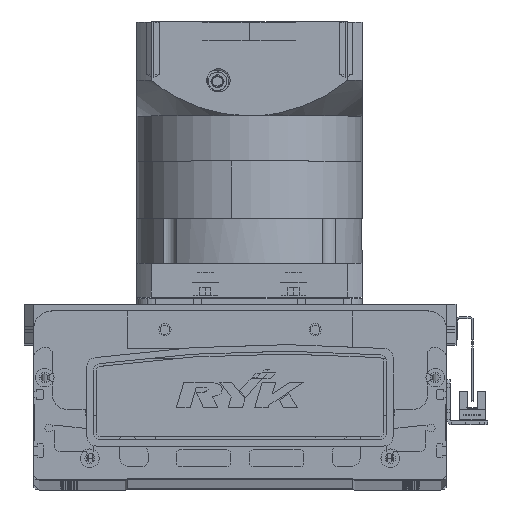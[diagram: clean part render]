
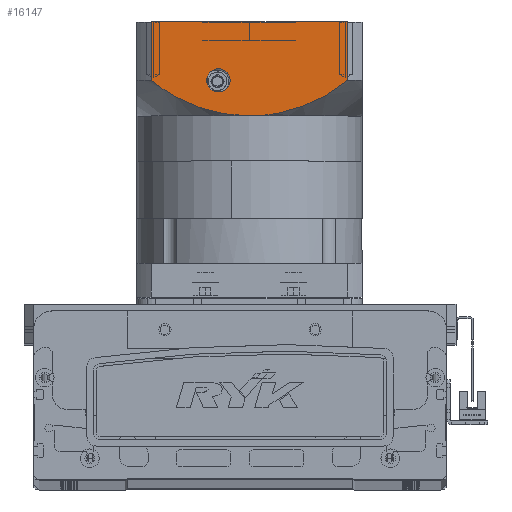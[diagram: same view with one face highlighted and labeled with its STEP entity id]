
A CAD part, top view. The second image highlights one B-rep face of the part: STEP entity #16147.
In plain terms, the highlighted planar face has unit normal (0, 0, 1) as drawn and (0, -1, 0) by its records, which use the part's own axes.
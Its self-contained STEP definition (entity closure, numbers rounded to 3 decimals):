
#1170 = FACE_BOUND ( 'NONE', #53653, .T. ) ;
#1744 = CARTESIAN_POINT ( 'NONE',  ( 36.444, -60., -108.986 ) ) ;
#1911 = CARTESIAN_POINT ( 'NONE',  ( -2.376, -60., -100.5 ) ) ;
#1978 = CARTESIAN_POINT ( 'NONE',  ( 41.545, -60., -111.931 ) ) ;
#3628 = B_SPLINE_CURVE_WITH_KNOTS ( 'NONE', 3,
 ( #35339, #68305, #46281, #29011, #51931, #28767, #34848, #23433, #23911, #6603, #1744, #1978, #18547, #51436, #46057, #40208, #50964, #45327 ),
 .UNSPECIFIED., .F., .F.,
 ( 4, 2, 2, 2, 2, 2, 2, 2, 4 ),
 ( 0., 0.014, 0.018, 0.021, 0.028, 0.042, 0.046, 0.05, 0.057 ),
 .UNSPECIFIED. ) ;
#3635 = EDGE_CURVE ( 'NONE', #4181, #39610, #24828, .T. ) ;
#3938 = CARTESIAN_POINT ( 'NONE',  ( 16.5, -60., -119.5 ) ) ;
#4181 = VERTEX_POINT ( 'NONE', #25695 ) ;
#4631 = EDGE_CURVE ( 'NONE', #5528, #4771, #34949, .T. ) ;
#4735 = CARTESIAN_POINT ( 'NONE',  ( -60., -60., -150.5 ) ) ;
#4771 = VERTEX_POINT ( 'NONE', #8766 ) ;
#5528 = VERTEX_POINT ( 'NONE', #33312 ) ;
#5749 = LINE ( 'NONE', #70437, #26695 ) ;
#6603 = CARTESIAN_POINT ( 'NONE',  ( 32.196, -60., -107.007 ) ) ;
#6840 = CARTESIAN_POINT ( 'NONE',  ( -60., -60., -150.5 ) ) ;
#7486 = CARTESIAN_POINT ( 'NONE',  ( 0., -60., -100.5 ) ) ;
#8766 = CARTESIAN_POINT ( 'NONE',  ( 52.156, -60., -150.5 ) ) ;
#8875 = EDGE_CURVE ( 'NONE', #4771, #19144, #5749, .T. ) ;
#10217 = CARTESIAN_POINT ( 'NONE',  ( 16.5, -60., -125.75 ) ) ;
#12500 = EDGE_CURVE ( 'NONE', #39610, #19144, #3628, .T. ) ;
#12858 = CARTESIAN_POINT ( 'NONE',  ( -38.51, -60., -110.207 ) ) ;
#14622 = CARTESIAN_POINT ( 'NONE',  ( 16.5, -60., -113.25 ) ) ;
#15845 = DIRECTION ( 'NONE',  ( 0., 0., -1. ) ) ;
#16147 = ADVANCED_FACE ( 'NONE', ( #38615, #1170 ), #32484, .T. ) ;
#18222 = CARTESIAN_POINT ( 'NONE',  ( -39.546, -60., -110.776 ) ) ;
#18383 = VECTOR ( 'NONE', #58312, 1000. ) ;
#18467 = CARTESIAN_POINT ( 'NONE',  ( -32.118, -60., -107.084 ) ) ;
#18547 = CARTESIAN_POINT ( 'NONE',  ( 42.555, -60., -112.543 ) ) ;
#18712 = CARTESIAN_POINT ( 'NONE',  ( -18.792, -60., -102.562 ) ) ;
#19136 = AXIS2_PLACEMENT_3D ( 'NONE', #3938, #54130, #15845 ) ;
#19144 = VERTEX_POINT ( 'NONE', #57994 ) ;
#19212 = LINE ( 'NONE', #30002, #18383 ) ;
#23433 = CARTESIAN_POINT ( 'NONE',  ( 23.329, -60., -103.886 ) ) ;
#23600 = CARTESIAN_POINT ( 'NONE',  ( -9.477, -60., -101.046 ) ) ;
#23911 = CARTESIAN_POINT ( 'NONE',  ( 25.577, -60., -104.596 ) ) ;
#24086 = CARTESIAN_POINT ( 'NONE',  ( -12.993, -60., -101.537 ) ) ;
#24828 = B_SPLINE_CURVE_WITH_KNOTS ( 'NONE', 3,
 ( #62623, #46212, #57974, #18222, #12858, #51853, #56976, #18467, #41094, #34542, #18712, #24086, #63111, #23600, #29661, #68706, #1911, #7486 ),
 .UNSPECIFIED., .F., .F.,
 ( 4, 2, 2, 2, 2, 2, 2, 2, 4 ),
 ( 0., 0.014, 0.018, 0.021, 0.028, 0.042, 0.046, 0.05, 0.057 ),
 .UNSPECIFIED. ) ;
#24977 = ORIENTED_EDGE ( 'NONE', *, *, #63837, .T. ) ;
#25695 = CARTESIAN_POINT ( 'NONE',  ( -52.156, -60., -119.5 ) ) ;
#26142 = VERTEX_POINT ( 'NONE', #10217 ) ;
#26695 = VECTOR ( 'NONE', #53106, 1000. ) ;
#28022 = ORIENTED_EDGE ( 'NONE', *, *, #30997, .T. ) ;
#28767 = CARTESIAN_POINT ( 'NONE',  ( 18.739, -60., -102.681 ) ) ;
#29011 = CARTESIAN_POINT ( 'NONE',  ( 15.267, -60., -101.938 ) ) ;
#29661 = CARTESIAN_POINT ( 'NONE',  ( -8.294, -60., -100.916 ) ) ;
#29921 = DIRECTION ( 'NONE',  ( 0., 1., 0. ) ) ;
#30002 = CARTESIAN_POINT ( 'NONE',  ( -52.156, -60., -97.5 ) ) ;
#30385 = CIRCLE ( 'NONE', #44291, 6.25 ) ;
#30997 = EDGE_CURVE ( 'NONE', #33356, #26142, #30385, .T. ) ;
#31551 = DIRECTION ( 'NONE',  ( 1., 0., 0. ) ) ;
#32484 = PLANE ( 'NONE',  #54375 ) ;
#33312 = CARTESIAN_POINT ( 'NONE',  ( -52.156, -60., -150.5 ) ) ;
#33356 = VERTEX_POINT ( 'NONE', #14622 ) ;
#34542 = CARTESIAN_POINT ( 'NONE',  ( -23.319, -60., -103.777 ) ) ;
#34848 = CARTESIAN_POINT ( 'NONE',  ( 19.894, -60., -102.964 ) ) ;
#34949 = LINE ( 'NONE', #6840, #38431 ) ;
#35053 = ORIENTED_EDGE ( 'NONE', *, *, #8875, .T. ) ;
#35339 = CARTESIAN_POINT ( 'NONE',  ( 0., -60., -100.5 ) ) ;
#38431 = VECTOR ( 'NONE', #51428, 1000. ) ;
#38615 = FACE_OUTER_BOUND ( 'NONE', #65212, .T. ) ;
#39610 = VERTEX_POINT ( 'NONE', #49207 ) ;
#40208 = CARTESIAN_POINT ( 'NONE',  ( 48.457, -60., -116.522 ) ) ;
#41094 = CARTESIAN_POINT ( 'NONE',  ( -29.939, -60., -106.183 ) ) ;
#44291 = AXIS2_PLACEMENT_3D ( 'NONE', #56997, #29921, #46470 ) ;
#45327 = CARTESIAN_POINT ( 'NONE',  ( 52.156, -60., -119.5 ) ) ;
#46057 = CARTESIAN_POINT ( 'NONE',  ( 45.542, -60., -114.478 ) ) ;
#46212 = CARTESIAN_POINT ( 'NONE',  ( -48.52, -60., -116.438 ) ) ;
#46281 = CARTESIAN_POINT ( 'NONE',  ( 9.454, -60., -100.914 ) ) ;
#46470 = DIRECTION ( 'NONE',  ( 0., 0., -1. ) ) ;
#49207 = CARTESIAN_POINT ( 'NONE',  ( 0., -60., -100.5 ) ) ;
#50964 = CARTESIAN_POINT ( 'NONE',  ( 50.338, -60., -117.969 ) ) ;
#51428 = DIRECTION ( 'NONE',  ( 1., 0., 0. ) ) ;
#51436 = CARTESIAN_POINT ( 'NONE',  ( 44.553, -60., -113.817 ) ) ;
#51853 = CARTESIAN_POINT ( 'NONE',  ( -36.409, -60., -109.113 ) ) ;
#51931 = CARTESIAN_POINT ( 'NONE',  ( 16.426, -60., -102.169 ) ) ;
#51979 = EDGE_CURVE ( 'NONE', #5528, #4181, #19212, .T. ) ;
#53106 = DIRECTION ( 'NONE',  ( 0., 0., 1. ) ) ;
#53653 = EDGE_LOOP ( 'NONE', ( #24977, #28022 ) ) ;
#54130 = DIRECTION ( 'NONE',  ( 0., 1., 0. ) ) ;
#54375 = AXIS2_PLACEMENT_3D ( 'NONE', #4735, #65226, #31551 ) ;
#55766 = ORIENTED_EDGE ( 'NONE', *, *, #4631, .T. ) ;
#56853 = ORIENTED_EDGE ( 'NONE', *, *, #3635, .F. ) ;
#56976 = CARTESIAN_POINT ( 'NONE',  ( -35.342, -60., -108.587 ) ) ;
#56997 = CARTESIAN_POINT ( 'NONE',  ( 16.5, -60., -119.5 ) ) ;
#57974 = CARTESIAN_POINT ( 'NONE',  ( -44.656, -60., -113.73 ) ) ;
#57994 = CARTESIAN_POINT ( 'NONE',  ( 52.156, -60., -119.5 ) ) ;
#58312 = DIRECTION ( 'NONE',  ( 0., 0., 1. ) ) ;
#60332 = ORIENTED_EDGE ( 'NONE', *, *, #12500, .F. ) ;
#62623 = CARTESIAN_POINT ( 'NONE',  ( -52.156, -60., -119.5 ) ) ;
#63111 = CARTESIAN_POINT ( 'NONE',  ( -11.825, -60., -101.356 ) ) ;
#63837 = EDGE_CURVE ( 'NONE', #26142, #33356, #66028, .T. ) ;
#65212 = EDGE_LOOP ( 'NONE', ( #65379, #55766, #35053, #60332, #56853 ) ) ;
#65226 = DIRECTION ( 'NONE',  ( 0., -1., 0. ) ) ;
#65379 = ORIENTED_EDGE ( 'NONE', *, *, #51979, .F. ) ;
#66028 = CIRCLE ( 'NONE', #19136, 6.25 ) ;
#68305 = CARTESIAN_POINT ( 'NONE',  ( 4.753, -60., -100.5 ) ) ;
#68706 = CARTESIAN_POINT ( 'NONE',  ( -4.747, -60., -100.604 ) ) ;
#70437 = CARTESIAN_POINT ( 'NONE',  ( 52.156, -60., -150.5 ) ) ;
